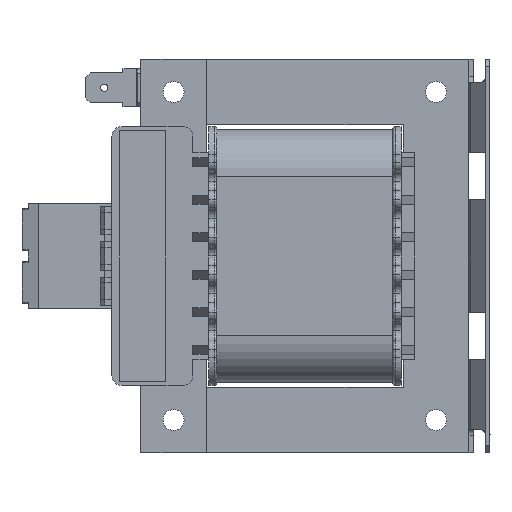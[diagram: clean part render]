
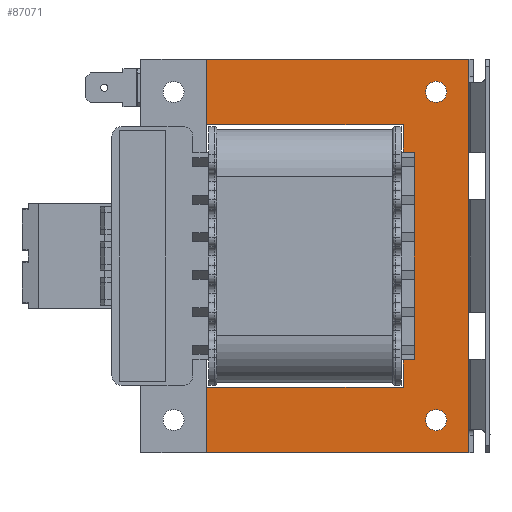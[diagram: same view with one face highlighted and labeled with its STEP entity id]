
A CAD part, left-side view. The second image highlights one B-rep face of the part: STEP entity #87071.
In plain terms, the highlighted planar face has unit normal (-1, 0, 0).
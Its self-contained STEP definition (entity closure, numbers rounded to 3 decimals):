
#1255 = EDGE_CURVE ( 'NONE', #93191, #69222, #92360, .T. ) ;
#1767 = CARTESIAN_POINT ( 'NONE',  ( -14.75, 14., 28. ) ) ;
#2789 = ORIENTED_EDGE ( 'NONE', *, *, #97499, .F. ) ;
#3369 = PLANE ( 'NONE',  #10370 ) ;
#5263 = DIRECTION ( 'NONE',  ( 1., 0., 0. ) ) ;
#7251 = VERTEX_POINT ( 'NONE', #81766 ) ;
#8912 = EDGE_CURVE ( 'NONE', #73062, #94006, #38716, .T. ) ;
#9286 = DIRECTION ( 'NONE',  ( 0., 0., 1. ) ) ;
#10370 = AXIS2_PLACEMENT_3D ( 'NONE', #26143, #79255, #33807 ) ;
#10643 = VERTEX_POINT ( 'NONE', #22338 ) ;
#10695 = CARTESIAN_POINT ( 'NONE',  ( -14.75, 0., 42. ) ) ;
#12379 = DIRECTION ( 'NONE',  ( 0., 0., -1. ) ) ;
#12573 = LINE ( 'NONE', #62868, #32767 ) ;
#13647 = FACE_BOUND ( 'NONE', #79813, .T. ) ;
#14495 = CARTESIAN_POINT ( 'NONE',  ( -14.75, 56., -28. ) ) ;
#14646 = DIRECTION ( 'NONE',  ( 0., -1., 0. ) ) ;
#14858 = CARTESIAN_POINT ( 'NONE',  ( -14.75, 7., -35. ) ) ;
#17566 = EDGE_CURVE ( 'NONE', #57646, #93191, #84921, .T. ) ;
#18392 = CARTESIAN_POINT ( 'NONE',  ( -14.75, 56., -42. ) ) ;
#19612 = DIRECTION ( 'NONE',  ( 0., 1., 0. ) ) ;
#20605 = VECTOR ( 'NONE', #96962, 1000. ) ;
#20769 = CIRCLE ( 'NONE', #51269, 2.25 ) ;
#22338 = CARTESIAN_POINT ( 'NONE',  ( -14.75, 14., -14. ) ) ;
#22482 = DIRECTION ( 'NONE',  ( 0., 0., -1. ) ) ;
#26143 = CARTESIAN_POINT ( 'NONE',  ( -14.75, 56., -28. ) ) ;
#27572 = DIRECTION ( 'NONE',  ( 0., 0., 1. ) ) ;
#27911 = LINE ( 'NONE', #67775, #88461 ) ;
#28633 = CARTESIAN_POINT ( 'NONE',  ( -14.75, 14., -28. ) ) ;
#29153 = ORIENTED_EDGE ( 'NONE', *, *, #83407, .T. ) ;
#29982 = CARTESIAN_POINT ( 'NONE',  ( -14.75, 14., 14. ) ) ;
#31795 = DIRECTION ( 'NONE',  ( 0., 0., 1. ) ) ;
#32767 = VECTOR ( 'NONE', #55525, 1000. ) ;
#33807 = DIRECTION ( 'NONE',  ( 0., 0., -1. ) ) ;
#34174 = VECTOR ( 'NONE', #58677, 1000. ) ;
#34243 = CARTESIAN_POINT ( 'NONE',  ( -14.75, 0., -42. ) ) ;
#38716 = LINE ( 'NONE', #61106, #96812 ) ;
#39890 = CARTESIAN_POINT ( 'NONE',  ( -14.75, 14., -28. ) ) ;
#40939 = LINE ( 'NONE', #95210, #96679 ) ;
#41797 = LINE ( 'NONE', #62425, #79789 ) ;
#42144 = VECTOR ( 'NONE', #27572, 1000. ) ;
#45300 = CARTESIAN_POINT ( 'NONE',  ( -14.75, 56., 42. ) ) ;
#45505 = LINE ( 'NONE', #69695, #63308 ) ;
#45664 = ORIENTED_EDGE ( 'NONE', *, *, #71042, .F. ) ;
#48243 = ORIENTED_EDGE ( 'NONE', *, *, #55514, .F. ) ;
#48669 = CARTESIAN_POINT ( 'NONE',  ( -14.75, 0., -42. ) ) ;
#50444 = ORIENTED_EDGE ( 'NONE', *, *, #84377, .F. ) ;
#50744 = CARTESIAN_POINT ( 'NONE',  ( -14.75, 7., 35. ) ) ;
#51269 = AXIS2_PLACEMENT_3D ( 'NONE', #14858, #67988, #22482 ) ;
#52587 = LINE ( 'NONE', #14495, #54945 ) ;
#53037 = VERTEX_POINT ( 'NONE', #39890 ) ;
#53461 = AXIS2_PLACEMENT_3D ( 'NONE', #50744, #5263, #58319 ) ;
#53467 = CARTESIAN_POINT ( 'NONE',  ( -14.75, 56., -14. ) ) ;
#53804 = ORIENTED_EDGE ( 'NONE', *, *, #8912, .F. ) ;
#53934 = ORIENTED_EDGE ( 'NONE', *, *, #65567, .F. ) ;
#54106 = FACE_BOUND ( 'NONE', #81825, .T. ) ;
#54552 = EDGE_CURVE ( 'NONE', #94006, #72831, #80399, .T. ) ;
#54945 = VECTOR ( 'NONE', #60013, 1000. ) ;
#55514 = EDGE_CURVE ( 'NONE', #60083, #57646, #27911, .T. ) ;
#55525 = DIRECTION ( 'NONE',  ( 0., 0., 1. ) ) ;
#55978 = ORIENTED_EDGE ( 'NONE', *, *, #79270, .T. ) ;
#57646 = VERTEX_POINT ( 'NONE', #81796 ) ;
#58203 = CARTESIAN_POINT ( 'NONE',  ( -14.75, 14., 28. ) ) ;
#58319 = DIRECTION ( 'NONE',  ( 0., 0., -1. ) ) ;
#58677 = DIRECTION ( 'NONE',  ( 0., 1., 0. ) ) ;
#58970 = EDGE_CURVE ( 'NONE', #72831, #72865, #95331, .T. ) ;
#60013 = DIRECTION ( 'NONE',  ( 0., -1., 0. ) ) ;
#60083 = VERTEX_POINT ( 'NONE', #87894 ) ;
#60382 = EDGE_CURVE ( 'NONE', #70952, #60083, #41797, .T. ) ;
#61106 = CARTESIAN_POINT ( 'NONE',  ( -14.75, 56., 42. ) ) ;
#62188 = DIRECTION ( 'NONE',  ( 0., -1., 0. ) ) ;
#62425 = CARTESIAN_POINT ( 'NONE',  ( -14.75, 56., -14. ) ) ;
#62868 = CARTESIAN_POINT ( 'NONE',  ( -14.75, 56., 28. ) ) ;
#63308 = VECTOR ( 'NONE', #31795, 1000. ) ;
#63432 = LINE ( 'NONE', #28633, #20605 ) ;
#64095 = CARTESIAN_POINT ( 'NONE',  ( -14.75, 56., -28. ) ) ;
#64752 = ORIENTED_EDGE ( 'NONE', *, *, #60382, .F. ) ;
#64840 = DIRECTION ( 'NONE',  ( 0., 1., 0. ) ) ;
#65400 = VERTEX_POINT ( 'NONE', #89377 ) ;
#65567 = EDGE_CURVE ( 'NONE', #53037, #10643, #63432, .T. ) ;
#67775 = CARTESIAN_POINT ( 'NONE',  ( -14.75, 56., 14. ) ) ;
#67988 = DIRECTION ( 'NONE',  ( 1., 0., 0. ) ) ;
#69222 = VERTEX_POINT ( 'NONE', #82939 ) ;
#69695 = CARTESIAN_POINT ( 'NONE',  ( -14.75, 56., -42. ) ) ;
#70952 = VERTEX_POINT ( 'NONE', #53467 ) ;
#71042 = EDGE_CURVE ( 'NONE', #72865, #79886, #45505, .T. ) ;
#71951 = ORIENTED_EDGE ( 'NONE', *, *, #54552, .F. ) ;
#72786 = CARTESIAN_POINT ( 'NONE',  ( -14.75, 0., 42. ) ) ;
#72831 = VERTEX_POINT ( 'NONE', #48669 ) ;
#72865 = VERTEX_POINT ( 'NONE', #18392 ) ;
#73062 = VERTEX_POINT ( 'NONE', #45300 ) ;
#76507 = ORIENTED_EDGE ( 'NONE', *, *, #17566, .F. ) ;
#76619 = FACE_OUTER_BOUND ( 'NONE', #87991, .T. ) ;
#77283 = ORIENTED_EDGE ( 'NONE', *, *, #94114, .F. ) ;
#78031 = VECTOR ( 'NONE', #12379, 1000. ) ;
#79255 = DIRECTION ( 'NONE',  ( 1., 0., 0. ) ) ;
#79270 = EDGE_CURVE ( 'NONE', #7251, #7251, #20769, .T. ) ;
#79789 = VECTOR ( 'NONE', #9286, 1000. ) ;
#79813 = EDGE_LOOP ( 'NONE', ( #29153 ) ) ;
#79886 = VERTEX_POINT ( 'NONE', #64095 ) ;
#80399 = LINE ( 'NONE', #72786, #78031 ) ;
#81766 = CARTESIAN_POINT ( 'NONE',  ( -14.75, 7., -37.25 ) ) ;
#81796 = CARTESIAN_POINT ( 'NONE',  ( -14.75, 14., 14. ) ) ;
#81825 = EDGE_LOOP ( 'NONE', ( #55978 ) ) ;
#82939 = CARTESIAN_POINT ( 'NONE',  ( -14.75, 56., 28. ) ) ;
#83407 = EDGE_CURVE ( 'NONE', #65400, #65400, #98227, .T. ) ;
#84377 = EDGE_CURVE ( 'NONE', #69222, #73062, #12573, .T. ) ;
#84921 = LINE ( 'NONE', #29982, #42144 ) ;
#87071 = ADVANCED_FACE ( 'NONE', ( #54106, #13647, #76619 ), #3369, .F. ) ;
#87894 = CARTESIAN_POINT ( 'NONE',  ( -14.75, 56., 14. ) ) ;
#87991 = EDGE_LOOP ( 'NONE', ( #50444, #92437, #76507, #48243, #64752, #77283, #53934, #2789, #45664, #97813, #71951, #53804 ) ) ;
#88461 = VECTOR ( 'NONE', #14646, 1000. ) ;
#89377 = CARTESIAN_POINT ( 'NONE',  ( -14.75, 7., 32.75 ) ) ;
#92360 = LINE ( 'NONE', #58203, #34174 ) ;
#92437 = ORIENTED_EDGE ( 'NONE', *, *, #1255, .F. ) ;
#92986 = VECTOR ( 'NONE', #64840, 1000. ) ;
#93191 = VERTEX_POINT ( 'NONE', #1767 ) ;
#94006 = VERTEX_POINT ( 'NONE', #10695 ) ;
#94114 = EDGE_CURVE ( 'NONE', #10643, #70952, #40939, .T. ) ;
#95210 = CARTESIAN_POINT ( 'NONE',  ( -14.75, 14., -14. ) ) ;
#95331 = LINE ( 'NONE', #34243, #92986 ) ;
#96679 = VECTOR ( 'NONE', #19612, 1000. ) ;
#96812 = VECTOR ( 'NONE', #62188, 1000. ) ;
#96962 = DIRECTION ( 'NONE',  ( 0., 0., 1. ) ) ;
#97499 = EDGE_CURVE ( 'NONE', #79886, #53037, #52587, .T. ) ;
#97813 = ORIENTED_EDGE ( 'NONE', *, *, #58970, .F. ) ;
#98227 = CIRCLE ( 'NONE', #53461, 2.25 ) ;
